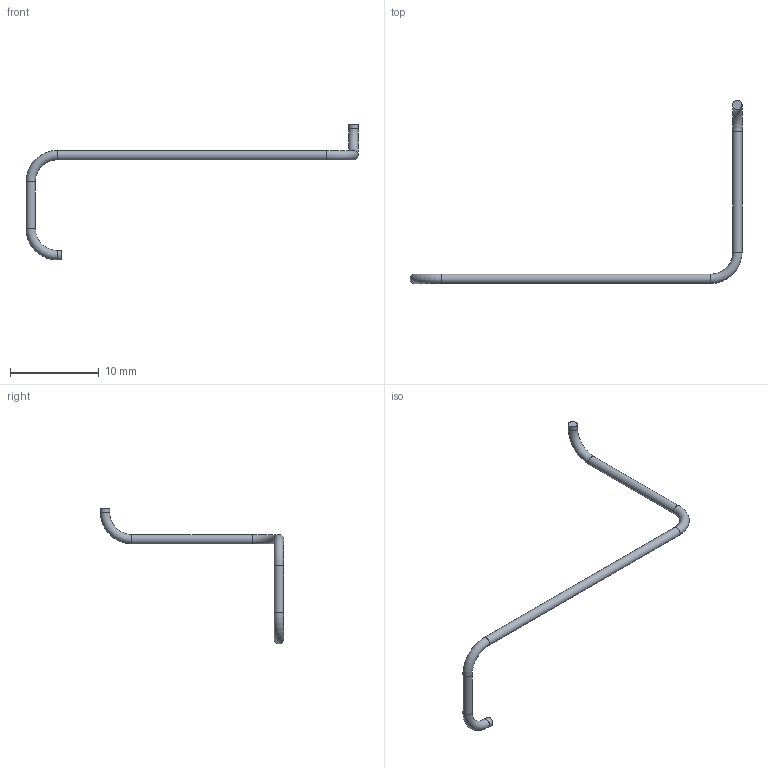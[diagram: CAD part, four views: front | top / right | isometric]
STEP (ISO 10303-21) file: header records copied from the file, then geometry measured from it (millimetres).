
FILE_DESCRIPTION(('Open CASCADE Model'),'2;1');
FILE_NAME('R36_J3_MIC_CK_PIGTAIL_1_OD1p05_R3','2026-09-15T14:09:12',( 'Author'),('Open CASCADE'),'Open CASCADE STEP processor 7.9', 'build123d','Unknown');
FILE_SCHEMA(('AUTOMOTIVE_DESIGN { 1 0 10303 214 1 1 1 1 }'));
Length unit declared in the file: millimetre
Products named in the file (1): R36_J3_MIC_CK_PIGTAIL_1_OD1p05_R3
Bounding box: 37.36 x 20.61 x 15.29 mm (x, y, z)
Volume: 59.7 mm3; surface area: 229.3 mm2
Topology: 1 solids, 1 shells, 11 faces, 19 edges, 10 vertices
Faces by surface type: cylinder 5, torus 4, plane 2
Full cylindrical faces by diameter (mm): 1.05 x5
Entity records: 503 total; most frequent: CARTESIAN_POINT 96, DIRECTION 78, ORIENTED_EDGE 38, PCURVE 38, DEFINITIONAL_REPRESENTATION 38, AXIS2_PLACEMENT_3D 26, LINE 24, VECTOR 24
